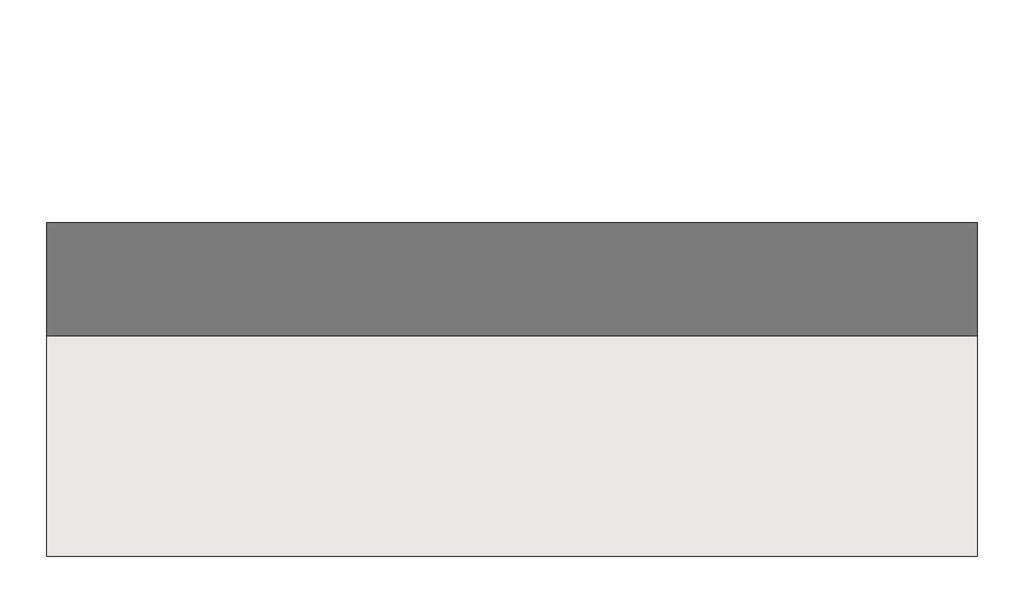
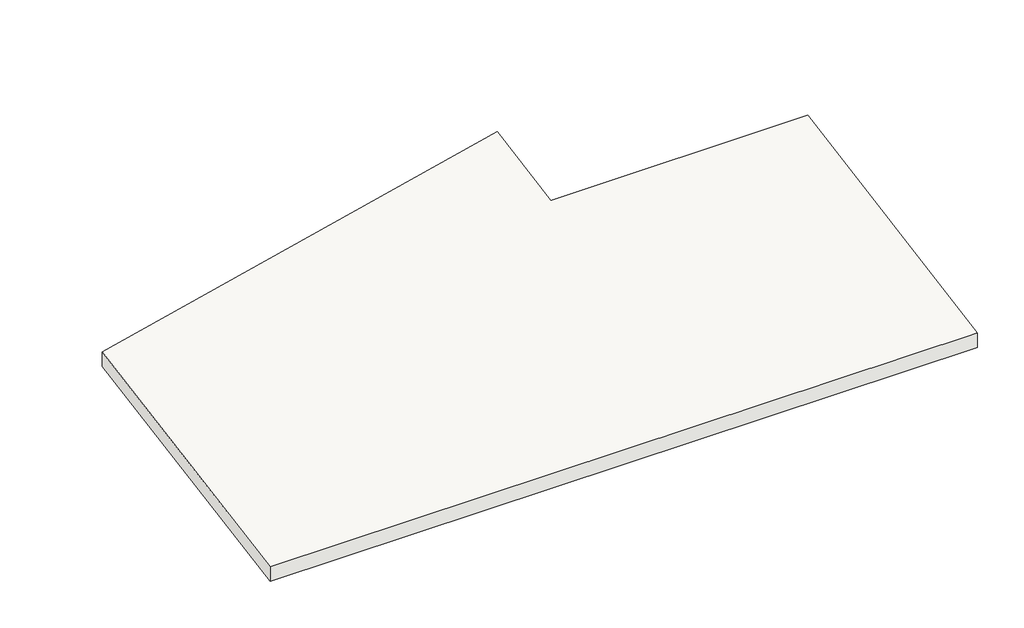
# One storey: 1 roof.
"""IFC4 building model written with IfcOpenShell, lengths in millimetres."""

import ifcopenshell
import ifcopenshell.guid

model = None  # the IFC model being written
_history = None  # IfcOwnerHistory: only IFC2X3 demands one
_inside = {}  # id of a spatial element -> (the spatial element, [elements in it])
_under = {}  # id of a project, library or spatial element -> (it, [spatial elements below it])
_declared = {}  # id of a project -> (the project, [libraries it declares])
_typed = {}  # id of a type object -> (the type object, [elements of that type])
_made_of = {}  # id of a material, layer set ... -> (it, [elements and type objects made of it])


def new_model(schema):
    """Start an empty IFC model of exactly this schema.

    Asked for "IFC4X3", IfcOpenShell would pick the latest addendum, in which some entities
    have other attributes; the version numbers below select the first issue.
    IFC2X3 requires an IfcOwnerHistory on every rooted entity: one is made here for all.
    """
    global model, _history
    if schema == "IFC4X3":
        model = ifcopenshell.file(schema_version=(4, 3, 0, 0))
    else:
        model = ifcopenshell.file(schema=schema)
    _inside.clear()
    _under.clear()
    _declared.clear()
    _typed.clear()
    _made_of.clear()
    _history = None
    if model.schema == "IFC2X3":
        org = make("IfcOrganization", Name="unknown")
        user = make(
            "IfcPersonAndOrganization",
            ThePerson=make("IfcPerson", FamilyName="unknown"),
            TheOrganization=org,
        )
        app = make(
            "IfcApplication",
            ApplicationDeveloper=org,
            Version="unknown",
            ApplicationFullName="unknown",
            ApplicationIdentifier="unknown",
        )
        _history = make(
            "IfcOwnerHistory",
            OwningUser=user,
            OwningApplication=app,
            ChangeAction="ADDED",
            CreationDate=0,
        )
    return model


def make(cls, **values):
    """One entity of the class cls with the attributes given. An attribute that is None is left unset."""
    return model.create_entity(
        cls, **{name: value for name, value in values.items() if value is not None}
    )


def rooted(cls, **values):
    """An entity with a GlobalId (a new one), such as an element, a storey or a relation."""
    return make(cls, GlobalId=ifcopenshell.guid.new(), OwnerHistory=_history, **values)


def si_unit(unit_type, name, prefix=None):
    """IfcSIUnit, for example si_unit("LENGTHUNIT", "METRE", prefix="MILLI")."""
    return make("IfcSIUnit", UnitType=unit_type, Prefix=prefix, Name=name)


def assignment(units):
    """IfcUnitAssignment: the units of a project."""
    return None if units is None else make("IfcUnitAssignment", Units=units)


def point(xyz):
    """IfcCartesianPoint."""
    return None if xyz is None else make("IfcCartesianPoint", Coordinates=xyz)


def direction(xyz):
    """IfcDirection."""
    return None if xyz is None else make("IfcDirection", DirectionRatios=xyz)


def frame(location, z_axis=None, x_axis=None):
    """IfcAxis2Placement3D, a coordinate frame: its origin and axes. An axis left out is left unset."""
    return make(
        "IfcAxis2Placement3D",
        Location=point(location),
        Axis=direction(z_axis),
        RefDirection=direction(x_axis),
    )


def origin():
    """The frame at (0, 0, 0) with its axes left unset."""
    return frame((0.0, 0.0, 0.0))


def place(relative_to, where):
    """IfcLocalPlacement: puts the frame where relative to a parent placement (None: the world)."""
    return make(
        "IfcLocalPlacement", PlacementRelTo=relative_to, RelativePlacement=where
    )


def context(
    kind, dimensions, precision=None, world=None, true_north=None, identifier=None
):
    """IfcGeometricRepresentationContext, for example the 3D "Model" context."""
    return make(
        "IfcGeometricRepresentationContext",
        ContextIdentifier=identifier,
        ContextType=kind,
        CoordinateSpaceDimension=dimensions,
        Precision=precision,
        WorldCoordinateSystem=world,
        TrueNorth=true_north,
    )


def project(units=None, contexts=None):
    """IfcProject with its units and contexts."""
    return rooted(
        "IfcProject",
        Name="project",
        RepresentationContexts=contexts,
        UnitsInContext=assignment(units),
    )


def spatial(cls, under=None, at=None, **own):
    """A site, building, storey or space (cls), placed at a placement, below another one or the project."""
    s = rooted(cls, ObjectPlacement=at, **own)
    if under is not None:
        _under.setdefault(under.id(), (under, []))[1].append(s)
    return s


def faces_of(points, faces, orient=None, outer=None):
    """IfcFace entities. A face is a list of loops; a loop is a list of indices into points, from 0.

    orient and outer hold one flag for each loop. By default every Orientation is true, the
    first loop of a face is its IfcFaceOuterBound and the others are IfcFaceBound.
    """
    made = []
    for i, loops in enumerate(faces):
        bounds = []
        for j, loop in enumerate(loops):
            is_outer = j == 0 if outer is None else outer[i][j]
            bounds.append(
                make(
                    "IfcFaceOuterBound" if is_outer else "IfcFaceBound",
                    Bound=make("IfcPolyLoop", Polygon=[points[k] for k in loop]),
                    Orientation=True if orient is None else orient[i][j],
                )
            )
        made.append(make("IfcFace", Bounds=bounds))
    return made


def faceted_brep(points, faces, orient=None, outer=None, voids=None):
    """IfcFacetedBrep: a solid bounded by flat faces; with voids (closed shells), ...WithVoids."""
    shared = [point(p) for p in points]
    hull = make("IfcClosedShell", CfsFaces=faces_of(shared, faces, orient, outer))
    if voids is None:
        return make("IfcFacetedBrep", Outer=hull)
    return make(
        "IfcFacetedBrepWithVoids",
        Outer=hull,
        Voids=[
            make(cls, CfsFaces=faces_of(shared, fs, o, b)) for cls, fs, o, b in voids
        ],
    )


def shape(context_of_items, identifier, shape_type, items):
    """IfcShapeRepresentation: the items that make up one representation, for example the "Body"."""
    return make(
        "IfcShapeRepresentation",
        ContextOfItems=context_of_items,
        RepresentationIdentifier=identifier,
        RepresentationType=shape_type,
        Items=items,
    )


def made_of(thing, what):
    """Note that an element or type object is made of a material, layer set ...; save() writes the relation."""
    if what is not None:
        _made_of.setdefault(what.id(), (what, []))[1].append(thing)
    return thing


def element(
    cls,
    number,
    at=None,
    inside=None,
    cuts=None,
    type_object=None,
    material=None,
    context=None,
    identifier="Body",
    shape_type=None,
    held_by="IfcProductDefinitionShape",
    body=None,
    shapes=None,
    **own,
):
    """One element of the class cls, such as IfcWall. Its Tag is "e" and its number.

    at: its placement. inside: the storey or other place that contains it. cuts: it is an
    opening in that element (IfcRelVoidsElement). A single representation is given by context,
    identifier, shape_type and body (its items); several are given by shapes. held_by: the class
    of the entity that holds the representations. save() writes the other relations.
    """
    e = rooted(cls, Tag="e%d" % number, ObjectPlacement=at, **own)
    if body is not None:
        shapes = [shape(context, identifier, shape_type, body)]
    if shapes is not None:
        e.Representation = make(held_by, Representations=shapes)
    if inside is not None:
        _inside.setdefault(inside.id(), (inside, []))[1].append(e)
    if cuts is not None:
        rooted(
            "IfcRelVoidsElement", RelatingBuildingElement=cuts, RelatedOpeningElement=e
        )
    if type_object is not None:
        _typed.setdefault(type_object.id(), (type_object, []))[1].append(e)
    return made_of(e, material)


def aggregate(whole, parts):
    """IfcRelAggregates: a whole, such as a stair, and the parts it consists of."""
    return rooted("IfcRelAggregates", RelatingObject=whole, RelatedObjects=parts)


def save(model, path):
    """Write the relations noted so far, then the file.

    IfcRelAggregates (storeys below a building ...), IfcRelContainedInSpatialStructure (elements
    in a storey), IfcRelDefinesByType, IfcRelAssociatesMaterial and IfcRelDeclares: one each for
    every whole, place, type object, material and project.
    """
    for whole, parts in _under.values():
        aggregate(whole, parts)
    for where, things in _inside.values():
        rooted(
            "IfcRelContainedInSpatialStructure",
            RelatedElements=things,
            RelatingStructure=where,
        )
    for kind, things in _typed.values():
        rooted("IfcRelDefinesByType", RelatedObjects=things, RelatingType=kind)
    for what, things in _made_of.values():
        rooted("IfcRelAssociatesMaterial", RelatedObjects=things, RelatingMaterial=what)
    for by, libraries in _declared.values():
        rooted("IfcRelDeclares", RelatingContext=by, RelatedDefinitions=libraries)
    model.write(path)


model = new_model("IFC4")

# Units and contexts
model_context = context("Model", 3, world=origin())
ifc_project = project(units=[si_unit("LENGTHUNIT", "METRE", prefix="MILLI")], contexts=[model_context])

# Site, building, storey
site = spatial("IfcSite", under=ifc_project)
building = spatial("IfcBuilding", under=site)
storey = spatial("IfcBuildingStorey", under=building, Name="03 屋頂", Elevation=4000.0)

# Roof
placement = place(None, origin())
element("IfcRoof", 1, ObjectType="一般 - 400mm", at=placement, inside=storey, context=model_context, shape_type="Brep", body=[
    faceted_brep([(-7347.0554883, -5949.1637817, 4000.0), (-7347.0554883, 1857.9790754, 5376.609928), (4752.9445117, 4450.8362183, 5833.8005994), (4752.9445117, 1950.8362183, 5392.9831476), (11652.9445117, 1950.8362183, 5392.9831476), (11652.9445117, -5949.1637817, 4000.0), (-7347.0554883, 1857.9790754, 5782.7805727), (-7347.0554883, -5949.1637817, 4406.1706448), (11652.9445117, -5949.1637817, 4406.1706448), (11652.9445117, 1950.8362183, 5799.1537924), (4752.9445117, 1950.8362183, 5799.1537924), (4752.9445117, 4450.8362183, 6239.9712441)], [[[0, 1, 2, 3, 4, 5]], [[6, 7, 8, 9, 10, 11]], [[5, 8, 7, 0]], [[7, 6, 1, 0]], [[6, 11, 2, 1]], [[9, 8, 5, 4]], [[10, 9, 4, 3]], [[11, 10, 3, 2]]]),
])

save(model, "model.ifc")
